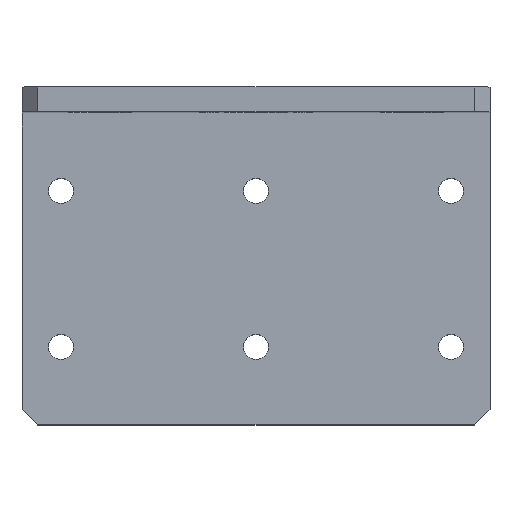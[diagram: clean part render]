
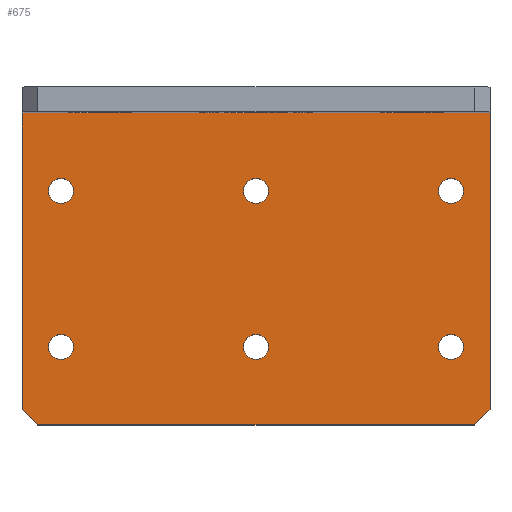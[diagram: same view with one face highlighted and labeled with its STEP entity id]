
A CAD part, top view. The second image highlights one B-rep face of the part: STEP entity #675.
In plain terms, the highlighted planar face has unit normal (0, 0, 1).
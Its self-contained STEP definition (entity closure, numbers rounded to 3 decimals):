
#524=AXIS2_PLACEMENT_3D('Plane Axis2P3D',#521,#522,#523) ;
#569=AXIS2_PLACEMENT_3D('Circle Axis2P3D',#567,#568,$) ;
#578=AXIS2_PLACEMENT_3D('Circle Axis2P3D',#576,#577,$) ;
#587=AXIS2_PLACEMENT_3D('Circle Axis2P3D',#585,#586,$) ;
#596=AXIS2_PLACEMENT_3D('Circle Axis2P3D',#594,#595,$) ;
#605=AXIS2_PLACEMENT_3D('Circle Axis2P3D',#603,#604,$) ;
#614=AXIS2_PLACEMENT_3D('Circle Axis2P3D',#612,#613,$) ;
#623=AXIS2_PLACEMENT_3D('Circle Axis2P3D',#621,#622,$) ;
#632=AXIS2_PLACEMENT_3D('Circle Axis2P3D',#630,#631,$) ;
#641=AXIS2_PLACEMENT_3D('Circle Axis2P3D',#639,#640,$) ;
#650=AXIS2_PLACEMENT_3D('Circle Axis2P3D',#648,#649,$) ;
#659=AXIS2_PLACEMENT_3D('Circle Axis2P3D',#657,#658,$) ;
#668=AXIS2_PLACEMENT_3D('Circle Axis2P3D',#666,#667,$) ;
#316=CARTESIAN_POINT('Vertex',(110.,-8.,-302.)) ;
#319=CARTESIAN_POINT('Line Origine',(185.,-8.,-302.)) ;
#323=CARTESIAN_POINT('Vertex',(260.,-8.,-302.)) ;
#521=CARTESIAN_POINT('Axis2P3D Location',(0.,0.,-302.)) ;
#526=CARTESIAN_POINT('Line Origine',(112.5,-105.5,-302.)) ;
#530=CARTESIAN_POINT('Vertex',(115.,-108.,-302.)) ;
#532=CARTESIAN_POINT('Vertex',(110.,-103.,-302.)) ;
#535=CARTESIAN_POINT('Line Origine',(185.,-108.,-302.)) ;
#539=CARTESIAN_POINT('Vertex',(255.,-108.,-302.)) ;
#542=CARTESIAN_POINT('Line Origine',(257.5,-105.5,-302.)) ;
#546=CARTESIAN_POINT('Vertex',(260.,-103.,-302.)) ;
#549=CARTESIAN_POINT('Line Origine',(260.,-55.5,-302.)) ;
#554=CARTESIAN_POINT('Line Origine',(110.,-55.5,-302.)) ;
#567=CARTESIAN_POINT('Axis2P3D Location',(122.5,-83.,-302.)) ;
#571=CARTESIAN_POINT('Vertex',(118.5,-83.,-302.)) ;
#573=CARTESIAN_POINT('Vertex',(126.5,-83.,-302.)) ;
#576=CARTESIAN_POINT('Axis2P3D Location',(122.5,-83.,-302.)) ;
#585=CARTESIAN_POINT('Axis2P3D Location',(247.5,-83.,-302.)) ;
#589=CARTESIAN_POINT('Vertex',(243.5,-83.,-302.)) ;
#591=CARTESIAN_POINT('Vertex',(251.5,-83.,-302.)) ;
#594=CARTESIAN_POINT('Axis2P3D Location',(247.5,-83.,-302.)) ;
#603=CARTESIAN_POINT('Axis2P3D Location',(185.,-83.,-302.)) ;
#607=CARTESIAN_POINT('Vertex',(181.,-83.,-302.)) ;
#609=CARTESIAN_POINT('Vertex',(189.,-83.,-302.)) ;
#612=CARTESIAN_POINT('Axis2P3D Location',(185.,-83.,-302.)) ;
#621=CARTESIAN_POINT('Axis2P3D Location',(122.5,-33.,-302.)) ;
#625=CARTESIAN_POINT('Vertex',(126.5,-33.,-302.)) ;
#627=CARTESIAN_POINT('Vertex',(118.5,-33.,-302.)) ;
#630=CARTESIAN_POINT('Axis2P3D Location',(122.5,-33.,-302.)) ;
#639=CARTESIAN_POINT('Axis2P3D Location',(247.5,-33.,-302.)) ;
#643=CARTESIAN_POINT('Vertex',(251.5,-33.,-302.)) ;
#645=CARTESIAN_POINT('Vertex',(243.5,-33.,-302.)) ;
#648=CARTESIAN_POINT('Axis2P3D Location',(247.5,-33.,-302.)) ;
#657=CARTESIAN_POINT('Axis2P3D Location',(185.,-33.,-302.)) ;
#661=CARTESIAN_POINT('Vertex',(189.,-33.,-302.)) ;
#663=CARTESIAN_POINT('Vertex',(181.,-33.,-302.)) ;
#666=CARTESIAN_POINT('Axis2P3D Location',(185.,-33.,-302.)) ;
#320=DIRECTION('Vector Direction',(-1.,0.,0.)) ;
#522=DIRECTION('Axis2P3D Direction',(0.,0.,-1.)) ;
#523=DIRECTION('Axis2P3D XDirection',(1.,0.,0.)) ;
#527=DIRECTION('Vector Direction',(0.707,-0.707,0.)) ;
#536=DIRECTION('Vector Direction',(1.,0.,0.)) ;
#543=DIRECTION('Vector Direction',(0.707,0.707,0.)) ;
#550=DIRECTION('Vector Direction',(0.,-1.,0.)) ;
#555=DIRECTION('Vector Direction',(0.,1.,0.)) ;
#568=DIRECTION('Axis2P3D Direction',(0.,0.,-1.)) ;
#577=DIRECTION('Axis2P3D Direction',(0.,0.,-1.)) ;
#586=DIRECTION('Axis2P3D Direction',(0.,0.,-1.)) ;
#595=DIRECTION('Axis2P3D Direction',(0.,0.,-1.)) ;
#604=DIRECTION('Axis2P3D Direction',(0.,0.,-1.)) ;
#613=DIRECTION('Axis2P3D Direction',(0.,0.,-1.)) ;
#622=DIRECTION('Axis2P3D Direction',(0.,0.,-1.)) ;
#631=DIRECTION('Axis2P3D Direction',(0.,0.,-1.)) ;
#640=DIRECTION('Axis2P3D Direction',(0.,0.,-1.)) ;
#649=DIRECTION('Axis2P3D Direction',(0.,0.,-1.)) ;
#658=DIRECTION('Axis2P3D Direction',(0.,0.,-1.)) ;
#667=DIRECTION('Axis2P3D Direction',(0.,0.,-1.)) ;
#321=VECTOR('Line Direction',#320,1.) ;
#528=VECTOR('Line Direction',#527,1.) ;
#537=VECTOR('Line Direction',#536,1.) ;
#544=VECTOR('Line Direction',#543,1.) ;
#551=VECTOR('Line Direction',#550,1.) ;
#556=VECTOR('Line Direction',#555,1.) ;
#560=ORIENTED_EDGE('',*,*,#534,.F.) ;
#561=ORIENTED_EDGE('',*,*,#541,.F.) ;
#562=ORIENTED_EDGE('',*,*,#548,.F.) ;
#563=ORIENTED_EDGE('',*,*,#553,.F.) ;
#564=ORIENTED_EDGE('',*,*,#325,.F.) ;
#565=ORIENTED_EDGE('',*,*,#558,.F.) ;
#582=ORIENTED_EDGE('',*,*,#575,.T.) ;
#583=ORIENTED_EDGE('',*,*,#580,.T.) ;
#600=ORIENTED_EDGE('',*,*,#593,.T.) ;
#601=ORIENTED_EDGE('',*,*,#598,.T.) ;
#618=ORIENTED_EDGE('',*,*,#611,.T.) ;
#619=ORIENTED_EDGE('',*,*,#616,.T.) ;
#636=ORIENTED_EDGE('',*,*,#629,.T.) ;
#637=ORIENTED_EDGE('',*,*,#634,.T.) ;
#654=ORIENTED_EDGE('',*,*,#647,.T.) ;
#655=ORIENTED_EDGE('',*,*,#652,.T.) ;
#672=ORIENTED_EDGE('',*,*,#665,.T.) ;
#673=ORIENTED_EDGE('',*,*,#670,.T.) ;
#584=FACE_BOUND('',#581,.T.) ;
#602=FACE_BOUND('',#599,.T.) ;
#620=FACE_BOUND('',#617,.T.) ;
#638=FACE_BOUND('',#635,.T.) ;
#656=FACE_BOUND('',#653,.T.) ;
#674=FACE_BOUND('',#671,.T.) ;
#675=ADVANCED_FACE('\X2\51E04F554F53\X0\.4',(#566,#584,#602,#620,#638,#656,#674),#525,.F.) ;
#570=CIRCLE('generated circle',#569,4.) ;
#579=CIRCLE('generated circle',#578,4.) ;
#588=CIRCLE('generated circle',#587,4.) ;
#597=CIRCLE('generated circle',#596,4.) ;
#606=CIRCLE('generated circle',#605,4.) ;
#615=CIRCLE('generated circle',#614,4.) ;
#624=CIRCLE('generated circle',#623,4.) ;
#633=CIRCLE('generated circle',#632,4.) ;
#642=CIRCLE('generated circle',#641,4.) ;
#651=CIRCLE('generated circle',#650,4.) ;
#660=CIRCLE('generated circle',#659,4.) ;
#669=CIRCLE('generated circle',#668,4.) ;
#325=EDGE_CURVE('',#317,#324,#322,.F.) ;
#534=EDGE_CURVE('',#531,#533,#529,.F.) ;
#541=EDGE_CURVE('',#540,#531,#538,.F.) ;
#548=EDGE_CURVE('',#547,#540,#545,.F.) ;
#553=EDGE_CURVE('',#324,#547,#552,.T.) ;
#558=EDGE_CURVE('',#533,#317,#557,.T.) ;
#575=EDGE_CURVE('',#572,#574,#570,.T.) ;
#580=EDGE_CURVE('',#574,#572,#579,.T.) ;
#593=EDGE_CURVE('',#590,#592,#588,.T.) ;
#598=EDGE_CURVE('',#592,#590,#597,.T.) ;
#611=EDGE_CURVE('',#608,#610,#606,.T.) ;
#616=EDGE_CURVE('',#610,#608,#615,.T.) ;
#629=EDGE_CURVE('',#626,#628,#624,.T.) ;
#634=EDGE_CURVE('',#628,#626,#633,.T.) ;
#647=EDGE_CURVE('',#644,#646,#642,.T.) ;
#652=EDGE_CURVE('',#646,#644,#651,.T.) ;
#665=EDGE_CURVE('',#662,#664,#660,.T.) ;
#670=EDGE_CURVE('',#664,#662,#669,.T.) ;
#559=EDGE_LOOP('',(#560,#561,#562,#563,#564,#565)) ;
#581=EDGE_LOOP('',(#582,#583)) ;
#599=EDGE_LOOP('',(#600,#601)) ;
#617=EDGE_LOOP('',(#618,#619)) ;
#635=EDGE_LOOP('',(#636,#637)) ;
#653=EDGE_LOOP('',(#654,#655)) ;
#671=EDGE_LOOP('',(#672,#673)) ;
#566=FACE_OUTER_BOUND('',#559,.T.) ;
#322=LINE('Line',#319,#321) ;
#529=LINE('Line',#526,#528) ;
#538=LINE('Line',#535,#537) ;
#545=LINE('Line',#542,#544) ;
#552=LINE('Line',#549,#551) ;
#557=LINE('Line',#554,#556) ;
#525=PLANE('',#524) ;
#317=VERTEX_POINT('',#316) ;
#324=VERTEX_POINT('',#323) ;
#531=VERTEX_POINT('',#530) ;
#533=VERTEX_POINT('',#532) ;
#540=VERTEX_POINT('',#539) ;
#547=VERTEX_POINT('',#546) ;
#572=VERTEX_POINT('',#571) ;
#574=VERTEX_POINT('',#573) ;
#590=VERTEX_POINT('',#589) ;
#592=VERTEX_POINT('',#591) ;
#608=VERTEX_POINT('',#607) ;
#610=VERTEX_POINT('',#609) ;
#626=VERTEX_POINT('',#625) ;
#628=VERTEX_POINT('',#627) ;
#644=VERTEX_POINT('',#643) ;
#646=VERTEX_POINT('',#645) ;
#662=VERTEX_POINT('',#661) ;
#664=VERTEX_POINT('',#663) ;
